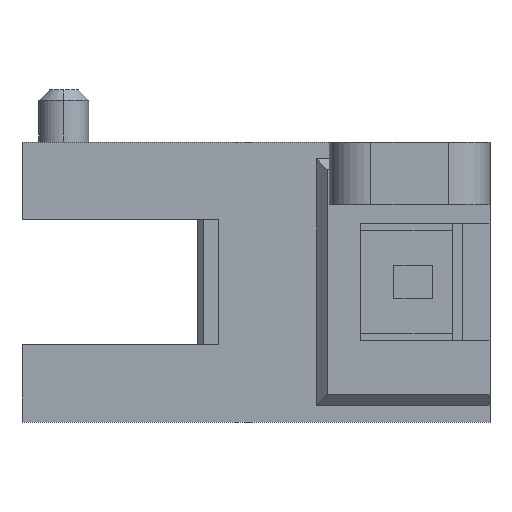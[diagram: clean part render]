
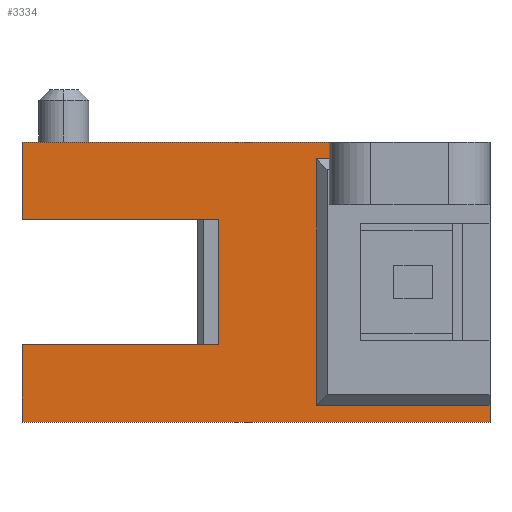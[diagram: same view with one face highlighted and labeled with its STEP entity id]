
A CAD part, left-side view. The second image highlights one B-rep face of the part: STEP entity #3334.
In plain terms, the highlighted planar face has unit normal (-1, 0, 0).
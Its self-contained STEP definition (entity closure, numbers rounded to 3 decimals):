
#10 = EDGE_CURVE ( 'NONE', #2713, #2773, #885, .T. ) ;
#13 = VERTEX_POINT ( 'NONE', #1144 ) ;
#83 = VERTEX_POINT ( 'NONE', #1405 ) ;
#89 = ORIENTED_EDGE ( 'NONE', *, *, #2532, .F. ) ;
#102 = EDGE_CURVE ( 'NONE', #576, #1799, #2743, .T. ) ;
#221 = CARTESIAN_POINT ( 'NONE',  ( -3., -6.4, 0. ) ) ;
#239 = CARTESIAN_POINT ( 'NONE',  ( -3., -20.4, -3.7 ) ) ;
#282 = LINE ( 'NONE', #633, #1589 ) ;
#342 = CARTESIAN_POINT ( 'NONE',  ( -3., -7.4, 6. ) ) ;
#393 = EDGE_LOOP ( 'NONE', ( #913, #1618, #2041, #1036, #3269, #929, #3116, #990, #1748, #2341, #89, #533 ) ) ;
#433 = EDGE_CURVE ( 'NONE', #1799, #13, #2282, .T. ) ;
#497 = DIRECTION ( 'NONE',  ( 0., 0., -1. ) ) ;
#504 = CARTESIAN_POINT ( 'NONE',  ( -3., -20.4, -3.7 ) ) ;
#533 = ORIENTED_EDGE ( 'NONE', *, *, #2776, .F. ) ;
#546 = VECTOR ( 'NONE', #2258, 1000. ) ;
#551 = LINE ( 'NONE', #2206, #3276 ) ;
#557 = VECTOR ( 'NONE', #2483, 1000. ) ;
#569 = VECTOR ( 'NONE', #709, 1000. ) ;
#573 = EDGE_CURVE ( 'NONE', #2260, #2773, #1416, .T. ) ;
#576 = VERTEX_POINT ( 'NONE', #1493 ) ;
#592 = VECTOR ( 'NONE', #848, 1000. ) ;
#633 = CARTESIAN_POINT ( 'NONE',  ( -3., -20.4, -3.7 ) ) ;
#684 = CARTESIAN_POINT ( 'NONE',  ( -3., 2., -3.7 ) ) ;
#709 = DIRECTION ( 'NONE',  ( 0., -1., 0. ) ) ;
#779 = CARTESIAN_POINT ( 'NONE',  ( -3., 2., 6. ) ) ;
#802 = VECTOR ( 'NONE', #1839, 1000. ) ;
#848 = DIRECTION ( 'NONE',  ( 0., 1., 0. ) ) ;
#885 = LINE ( 'NONE', #3187, #802 ) ;
#901 = EDGE_CURVE ( 'NONE', #576, #83, #2005, .T. ) ;
#913 = ORIENTED_EDGE ( 'NONE', *, *, #901, .F. ) ;
#929 = ORIENTED_EDGE ( 'NONE', *, *, #1478, .F. ) ;
#956 = VECTOR ( 'NONE', #1486, 1000. ) ;
#968 = EDGE_CURVE ( 'NONE', #1603, #13, #1596, .T. ) ;
#977 = CARTESIAN_POINT ( 'NONE',  ( -3., -6.4, 0. ) ) ;
#990 = ORIENTED_EDGE ( 'NONE', *, *, #10, .T. ) ;
#1022 = FACE_OUTER_BOUND ( 'NONE', #393, .T. ) ;
#1035 = DIRECTION ( 'NONE',  ( 0., -1., 0. ) ) ;
#1036 = ORIENTED_EDGE ( 'NONE', *, *, #968, .F. ) ;
#1081 = LINE ( 'NONE', #1943, #2565 ) ;
#1096 = EDGE_CURVE ( 'NONE', #2696, #2260, #551, .T. ) ;
#1102 = LINE ( 'NONE', #684, #3301 ) ;
#1144 = CARTESIAN_POINT ( 'NONE',  ( -3., -20.4, 8.9 ) ) ;
#1161 = EDGE_CURVE ( 'NONE', #3263, #1603, #1081, .T. ) ;
#1199 = AXIS2_PLACEMENT_3D ( 'NONE', #221, #2065, #497 ) ;
#1236 = CARTESIAN_POINT ( 'NONE',  ( -3., 2., 0. ) ) ;
#1388 = EDGE_CURVE ( 'NONE', #2713, #2095, #3320, .T. ) ;
#1405 = CARTESIAN_POINT ( 'NONE',  ( -3., -20.4, -2.9 ) ) ;
#1415 = DIRECTION ( 'NONE',  ( 0., 0., -1. ) ) ;
#1416 = LINE ( 'NONE', #977, #569 ) ;
#1478 = EDGE_CURVE ( 'NONE', #2095, #3263, #2988, .T. ) ;
#1486 = DIRECTION ( 'NONE',  ( 0., 0., 1. ) ) ;
#1493 = CARTESIAN_POINT ( 'NONE',  ( -3., -12.1, -2.9 ) ) ;
#1553 = CARTESIAN_POINT ( 'NONE',  ( -3., -12.1, 8.9 ) ) ;
#1589 = VECTOR ( 'NONE', #1415, 1000. ) ;
#1596 = LINE ( 'NONE', #504, #2303 ) ;
#1603 = VERTEX_POINT ( 'NONE', #2071 ) ;
#1618 = ORIENTED_EDGE ( 'NONE', *, *, #102, .T. ) ;
#1748 = ORIENTED_EDGE ( 'NONE', *, *, #573, .F. ) ;
#1793 = PLANE ( 'NONE',  #1199 ) ;
#1799 = VERTEX_POINT ( 'NONE', #2254 ) ;
#1839 = DIRECTION ( 'NONE',  ( 0., 0., -1. ) ) ;
#1943 = CARTESIAN_POINT ( 'NONE',  ( -3., -20.4, 9.7 ) ) ;
#2005 = LINE ( 'NONE', #3060, #546 ) ;
#2041 = ORIENTED_EDGE ( 'NONE', *, *, #433, .T. ) ;
#2065 = DIRECTION ( 'NONE',  ( 1., 0., 0. ) ) ;
#2067 = DIRECTION ( 'NONE',  ( 0., 0., -1. ) ) ;
#2071 = CARTESIAN_POINT ( 'NONE',  ( -3., -20.4, 9.7 ) ) ;
#2095 = VERTEX_POINT ( 'NONE', #779 ) ;
#2204 = VECTOR ( 'NONE', #1035, 1000. ) ;
#2206 = CARTESIAN_POINT ( 'NONE',  ( -3., 2., 0. ) ) ;
#2214 = CARTESIAN_POINT ( 'NONE',  ( -3., -12.1, 8.9 ) ) ;
#2234 = DIRECTION ( 'NONE',  ( 0., -1., 0. ) ) ;
#2254 = CARTESIAN_POINT ( 'NONE',  ( -3., -12.1, 8.9 ) ) ;
#2258 = DIRECTION ( 'NONE',  ( 0., -1., 0. ) ) ;
#2260 = VERTEX_POINT ( 'NONE', #1236 ) ;
#2282 = LINE ( 'NONE', #1553, #2204 ) ;
#2303 = VECTOR ( 'NONE', #2067, 1000. ) ;
#2341 = ORIENTED_EDGE ( 'NONE', *, *, #1096, .F. ) ;
#2368 = VERTEX_POINT ( 'NONE', #239 ) ;
#2474 = CARTESIAN_POINT ( 'NONE',  ( -3., 2., 9.7 ) ) ;
#2483 = DIRECTION ( 'NONE',  ( 0., 0., 1. ) ) ;
#2532 = EDGE_CURVE ( 'NONE', #2368, #2696, #1102, .T. ) ;
#2536 = DIRECTION ( 'NONE',  ( 0., 1., 0. ) ) ;
#2565 = VECTOR ( 'NONE', #2234, 1000. ) ;
#2693 = CARTESIAN_POINT ( 'NONE',  ( -3., 2., 6. ) ) ;
#2696 = VERTEX_POINT ( 'NONE', #2712 ) ;
#2712 = CARTESIAN_POINT ( 'NONE',  ( -3., 2., -3.7 ) ) ;
#2713 = VERTEX_POINT ( 'NONE', #342 ) ;
#2743 = LINE ( 'NONE', #2214, #557 ) ;
#2773 = VERTEX_POINT ( 'NONE', #3268 ) ;
#2776 = EDGE_CURVE ( 'NONE', #83, #2368, #282, .T. ) ;
#2988 = LINE ( 'NONE', #3095, #956 ) ;
#3060 = CARTESIAN_POINT ( 'NONE',  ( -3., -12.1, -2.9 ) ) ;
#3095 = CARTESIAN_POINT ( 'NONE',  ( -3., 2., 9.7 ) ) ;
#3116 = ORIENTED_EDGE ( 'NONE', *, *, #1388, .F. ) ;
#3187 = CARTESIAN_POINT ( 'NONE',  ( -3., -7.4, 6. ) ) ;
#3263 = VERTEX_POINT ( 'NONE', #2474 ) ;
#3268 = CARTESIAN_POINT ( 'NONE',  ( -3., -7.4, 0. ) ) ;
#3269 = ORIENTED_EDGE ( 'NONE', *, *, #1161, .F. ) ;
#3276 = VECTOR ( 'NONE', #3282, 1000. ) ;
#3282 = DIRECTION ( 'NONE',  ( 0., 0., 1. ) ) ;
#3301 = VECTOR ( 'NONE', #2536, 1000. ) ;
#3320 = LINE ( 'NONE', #2693, #592 ) ;
#3334 = ADVANCED_FACE ( 'NONE', ( #1022 ), #1793, .F. ) ;
